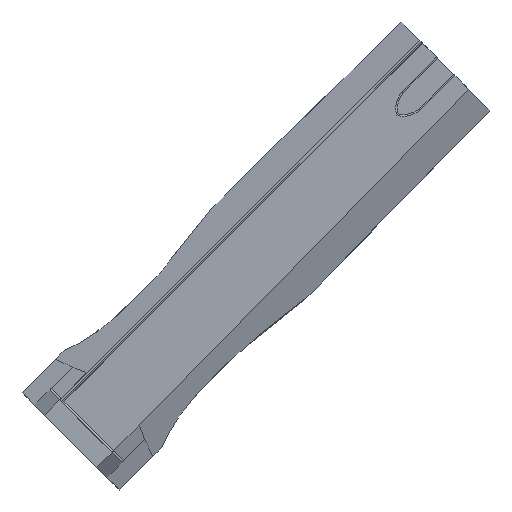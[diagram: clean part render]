
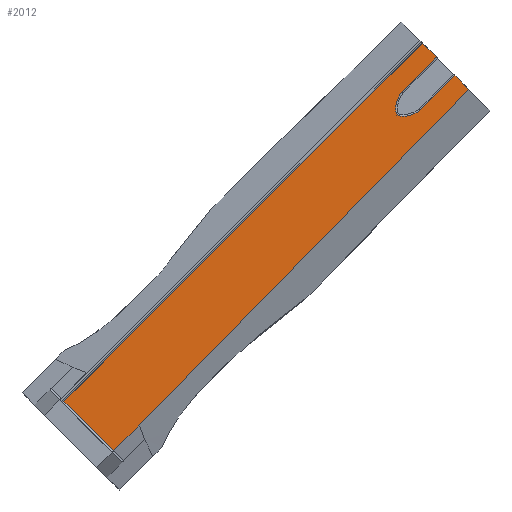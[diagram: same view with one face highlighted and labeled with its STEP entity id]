
A CAD part, top view. The second image highlights one B-rep face of the part: STEP entity #2012.
In plain terms, the highlighted planar face has unit normal (0, 0, 1).
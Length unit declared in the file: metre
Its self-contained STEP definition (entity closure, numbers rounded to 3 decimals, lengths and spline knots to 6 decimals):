
#109=B_SPLINE_CURVE_WITH_KNOTS('',3,(#3094,#3095,#3096,#3097),
 .UNSPECIFIED.,.F.,.F.,(4,4),(0.005689,0.175065),
 .UNSPECIFIED.);
#110=B_SPLINE_CURVE_WITH_KNOTS('',2,(#3100,#3101,#3102),.UNSPECIFIED.,.F.,
 .F.,(3,3),(0.,1.),.PIECEWISE_BEZIER_KNOTS.);
#111=B_SPLINE_CURVE_WITH_KNOTS('',2,(#3104,#3105,#3106),.UNSPECIFIED.,.F.,
 .F.,(3,3),(0.,1.),.PIECEWISE_BEZIER_KNOTS.);
#371=ORIENTED_EDGE('',*,*,#997,.T.);
#372=ORIENTED_EDGE('',*,*,#998,.T.);
#373=ORIENTED_EDGE('',*,*,#999,.F.);
#374=ORIENTED_EDGE('',*,*,#1000,.F.);
#375=ORIENTED_EDGE('',*,*,#1001,.T.);
#376=ORIENTED_EDGE('',*,*,#1002,.T.);
#377=ORIENTED_EDGE('',*,*,#940,.F.);
#378=ORIENTED_EDGE('',*,*,#1003,.F.);
#379=ORIENTED_EDGE('',*,*,#1004,.T.);
#380=ORIENTED_EDGE('',*,*,#1005,.F.);
#381=ORIENTED_EDGE('',*,*,#1006,.T.);
#382=ORIENTED_EDGE('',*,*,#936,.F.);
#383=ORIENTED_EDGE('',*,*,#1007,.T.);
#936=EDGE_CURVE('',#1249,#1250,#1430,.T.);
#940=EDGE_CURVE('',#1253,#1254,#1432,.T.);
#997=EDGE_CURVE('',#1304,#1305,#1465,.F.);
#998=EDGE_CURVE('',#1305,#1306,#1466,.F.);
#999=EDGE_CURVE('',#1307,#1306,#1467,.T.);
#1000=EDGE_CURVE('',#1308,#1307,#1468,.T.);
#1001=EDGE_CURVE('',#1308,#1309,#1469,.T.);
#1002=EDGE_CURVE('',#1309,#1254,#109,.T.);
#1003=EDGE_CURVE('',#1310,#1253,#1470,.T.);
#1004=EDGE_CURVE('',#1310,#1311,#110,.F.);
#1005=EDGE_CURVE('',#1312,#1311,#111,.F.);
#1006=EDGE_CURVE('',#1312,#1250,#1471,.T.);
#1007=EDGE_CURVE('',#1249,#1304,#1472,.T.);
#1249=VERTEX_POINT('',#2890);
#1250=VERTEX_POINT('',#2892);
#1253=VERTEX_POINT('',#2898);
#1254=VERTEX_POINT('',#2900);
#1304=VERTEX_POINT('',#3084);
#1305=VERTEX_POINT('',#3085);
#1306=VERTEX_POINT('',#3087);
#1307=VERTEX_POINT('',#3089);
#1308=VERTEX_POINT('',#3091);
#1309=VERTEX_POINT('',#3093);
#1310=VERTEX_POINT('',#3099);
#1311=VERTEX_POINT('',#3103);
#1312=VERTEX_POINT('',#3107);
#1430=LINE('',#2891,#1596);
#1432=LINE('',#2899,#1598);
#1465=LINE('',#3083,#1631);
#1466=LINE('',#3086,#1632);
#1467=LINE('',#3088,#1633);
#1468=LINE('',#3090,#1634);
#1469=LINE('',#3092,#1635);
#1470=LINE('',#3098,#1636);
#1471=LINE('',#3108,#1637);
#1472=LINE('',#3109,#1638);
#1596=VECTOR('',#2298,1.);
#1598=VECTOR('',#2304,1.);
#1631=VECTOR('',#2359,1.);
#1632=VECTOR('',#2360,1.);
#1633=VECTOR('',#2361,1.);
#1634=VECTOR('',#2362,1.);
#1635=VECTOR('',#2363,1.);
#1636=VECTOR('',#2364,1.);
#1637=VECTOR('',#2365,1.);
#1638=VECTOR('',#2366,1.);
#1734=EDGE_LOOP('',(#371,#372,#373,#374,#375,#376,#377,#378,#379,#380,#381,
#382,#383));
#1848=FACE_BOUND('',#1734,.T.);
#1956=PLANE('',#2153);
#2012=ADVANCED_FACE('',(#1848),#1956,.T.);
#2153=AXIS2_PLACEMENT_3D('',#3082,#2357,#2358);
#2298=DIRECTION('',(0.707,-0.707,0.));
#2304=DIRECTION('',(0.707,-0.707,0.));
#2357=DIRECTION('',(0.,0.,1.));
#2358=DIRECTION('',(1.,0.,0.));
#2359=DIRECTION('',(0.707,0.707,0.));
#2360=DIRECTION('',(-0.707,0.707,0.));
#2361=DIRECTION('',(-0.707,-0.707,0.));
#2362=DIRECTION('',(-0.707,-0.707,0.));
#2363=DIRECTION('',(-0.707,0.707,0.));
#2364=DIRECTION('',(0.707,0.707,0.));
#2365=DIRECTION('',(0.707,0.707,0.));
#2366=DIRECTION('',(-0.714,-0.7,0.));
#2890=CARTESIAN_POINT('',(0.054718,0.11676,0.0045));
#2891=CARTESIAN_POINT('',(0.060809,0.110669,0.0045));
#2892=CARTESIAN_POINT('',(0.058356,0.113123,0.0045));
#2898=CARTESIAN_POINT('',(0.063263,0.108215,0.0045));
#2899=CARTESIAN_POINT('',(0.060809,0.110669,0.0045));
#2900=CARTESIAN_POINT('',(0.0669,0.104578,0.0045));
#3082=CARTESIAN_POINT('',(0.097081,0.146941,0.0045));
#3083=CARTESIAN_POINT('',(0.25681,0.319044,0.0045));
#3084=CARTESIAN_POINT('',(0.044498,0.106732,0.0045));
#3085=CARTESIAN_POINT('',(-0.039939,0.022295,0.0045));
#3086=CARTESIAN_POINT('',(-0.033752,0.016108,0.0045));
#3087=CARTESIAN_POINT('',(-0.026847,0.009203,0.0045));
#3088=CARTESIAN_POINT('',(-0.023427,0.012623,0.0045));
#3089=CARTESIAN_POINT('',(-0.020048,0.016002,0.0045));
#3090=CARTESIAN_POINT('',(-0.015723,0.020327,0.0045));
#3091=CARTESIAN_POINT('',(-0.015723,0.020327,0.0045));
#3092=CARTESIAN_POINT('',(-0.019175,0.023779,0.0045));
#3093=CARTESIAN_POINT('',(-0.015763,0.020367,0.0045));
#3094=CARTESIAN_POINT('',(-0.015763,0.020367,0.0045));
#3095=CARTESIAN_POINT('',(0.026271,0.063188,0.0045));
#3096=CARTESIAN_POINT('',(0.053825,0.091259,0.0045));
#3097=CARTESIAN_POINT('',(0.0669,0.104578,0.0045));
#3098=CARTESIAN_POINT('',(0.099535,0.144487,0.0045));
#3099=CARTESIAN_POINT('',(0.05399,0.098942,0.0045));
#3100=CARTESIAN_POINT('',(0.047925,0.097784,0.0045));
#3101=CARTESIAN_POINT('',(0.050481,0.096746,0.0045));
#3102=CARTESIAN_POINT('',(0.05399,0.098942,0.0045));
#3103=CARTESIAN_POINT('',(0.047925,0.097784,0.0045));
#3104=CARTESIAN_POINT('',(0.047925,0.097784,0.0045));
#3105=CARTESIAN_POINT('',(0.046886,0.10034,0.0045));
#3106=CARTESIAN_POINT('',(0.049082,0.103849,0.0045));
#3107=CARTESIAN_POINT('',(0.049082,0.103849,0.0045));
#3108=CARTESIAN_POINT('',(0.094627,0.149395,0.0045));
#3109=CARTESIAN_POINT('',(0.09139,0.152741,0.0045));
